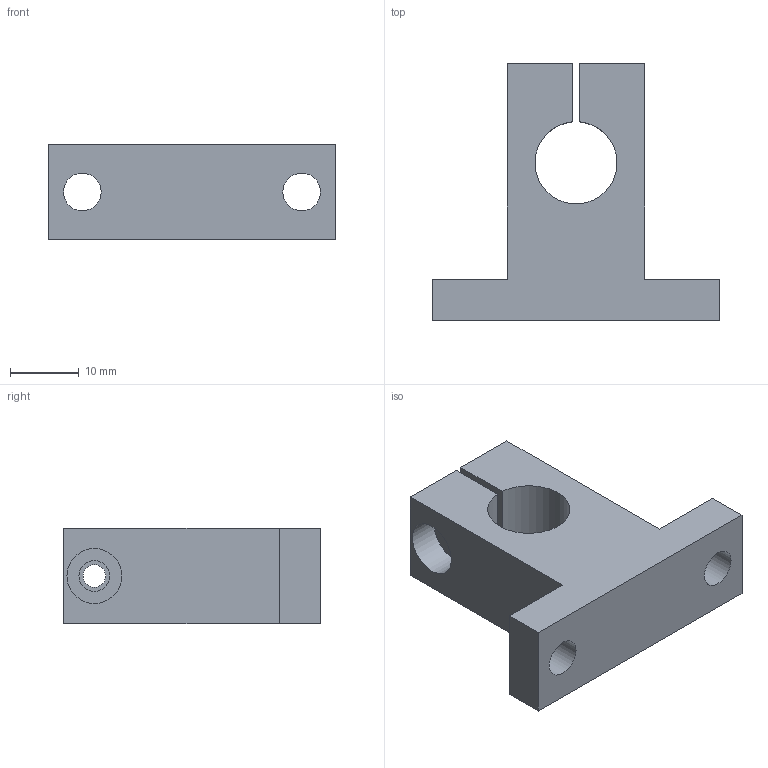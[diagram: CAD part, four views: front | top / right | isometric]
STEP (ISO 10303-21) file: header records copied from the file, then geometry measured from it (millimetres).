
FILE_DESCRIPTION(/* description */ ('Unknown'),/* implementation_level */ '2;1');
FILE_NAME(/* name */ 'SK12',/* time_stamp */ '2025-02-03T17:56:23+08:00',/* author */ ('Unknown'),/* organization */ ('Unknown'),/* preprocessor_version */ 'ST-DEVELOPER v18.102',/* originating_system */ 'Solid Edge',/* authorisation */ 'Unknown');
FILE_SCHEMA (('AUTOMOTIVE_DESIGN {1 0 10303 214 3 1 1}'));
Length unit declared in the file: millimetre
Products named in the file (1): SK12
Bounding box: 42 x 37.5 x 14 mm (x, y, z)
Volume: 9973.5 mm3; surface area: 4830.8 mm2
Topology: 1 solids, 1 shells, 20 faces, 51 edges, 34 vertices
Faces by surface type: plane 14, cylinder 6
Full cylindrical faces by diameter (mm): 3.3 x1, 4.5 x1, 5.5 x2, 8 x1
Entity records: 628 total; most frequent: CARTESIAN_POINT 101, DIRECTION 100, ORIENTED_EDGE 92, EDGE_CURVE 46, VERTEX_POINT 34, LINE 34, VECTOR 34, EDGE_LOOP 34
